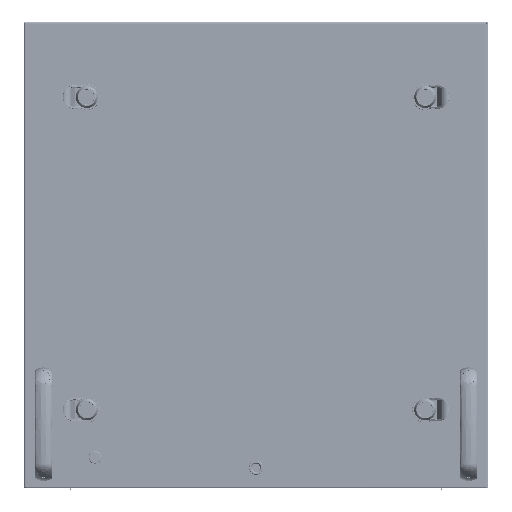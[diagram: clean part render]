
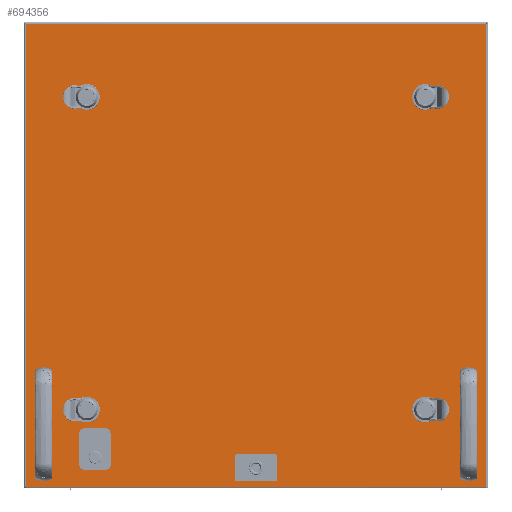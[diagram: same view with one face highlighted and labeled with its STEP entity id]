
A CAD part, front view. The second image highlights one B-rep face of the part: STEP entity #694356.
In plain terms, the highlighted planar face has unit normal (0, -1, 0) as drawn and (0, 0, 1) by its records, which use the part's own axes.
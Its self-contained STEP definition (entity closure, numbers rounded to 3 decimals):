
#692001=CARTESIAN_POINT(' ',(591.7,594.7,0.));
#692006=DIRECTION(' ',(0.,-1.,0.));
#692011=VECTOR(' ',#692006,1.);
#692016=LINE('',#692001,#692011);
#692021=CARTESIAN_POINT(' ',(591.7,594.7,0.));
#692022=VERTEX_POINT(' ',#692021);
#692026=CARTESIAN_POINT(' ',(591.7,2.3,0.));
#692027=VERTEX_POINT(' ',#692026);
#692031=EDGE_CURVE(' ',#692022,#692027,#692016,.T.);
#693546=DIRECTION(' ',(-0.,-0.,1.));
#693551=CARTESIAN_POINT(' ',(591.7,2.3,0.));
#693556=DIRECTION(' ',(0.,1.,0.));
#693561=AXIS2_PLACEMENT_3D(' ',#693551,#693546,#693556);
#693566=PLANE('NONE',#693561);
#693571=CARTESIAN_POINT(' ',(2.3,2.3,0.));
#693576=DIRECTION(' ',(1.,0.,0.));
#693581=VECTOR(' ',#693576,1.);
#693586=LINE('',#693571,#693581);
#693591=CARTESIAN_POINT(' ',(2.3,2.3,0.));
#693592=VERTEX_POINT(' ',#693591);
#693596=EDGE_CURVE(' ',#693592,#692027,#693586,.T.);
#693601=ORIENTED_EDGE(' ',*,*,#693596,.T.);
#693606=ORIENTED_EDGE(' ',*,*,#692031,.F.);
#693611=CARTESIAN_POINT(' ',(591.7,594.7,0.));
#693616=DIRECTION(' ',(-1.,0.,0.));
#693621=VECTOR(' ',#693616,1.);
#693626=LINE('',#693611,#693621);
#693631=CARTESIAN_POINT(' ',(2.3,594.7,0.));
#693632=VERTEX_POINT(' ',#693631);
#693636=EDGE_CURVE(' ',#692022,#693632,#693626,.T.);
#693641=ORIENTED_EDGE(' ',*,*,#693636,.T.);
#693646=CARTESIAN_POINT(' ',(2.3,594.7,0.));
#693651=DIRECTION(' ',(0.,-1.,0.));
#693656=VECTOR(' ',#693651,1.);
#693661=LINE('',#693646,#693656);
#693666=EDGE_CURVE(' ',#693632,#693592,#693661,.T.);
#693671=ORIENTED_EDGE(' ',*,*,#693666,.T.);
#693676=EDGE_LOOP(' ',(#693601,#693606,#693641,#693671));
#693681=FACE_OUTER_BOUND(' ',#693676,.T.);
#693686=CARTESIAN_POINT(' ',(110.85,30.,0.));
#693691=DIRECTION(' ',(0.,1.,0.));
#693696=VECTOR(' ',#693691,1.);
#693701=LINE('',#693686,#693696);
#693706=CARTESIAN_POINT(' ',(110.85,30.,0.));
#693707=VERTEX_POINT(' ',#693706);
#693711=CARTESIAN_POINT(' ',(110.85,71.,0.));
#693712=VERTEX_POINT(' ',#693711);
#693716=EDGE_CURVE(' ',#693707,#693712,#693701,.T.);
#693721=ORIENTED_EDGE(' ',*,*,#693716,.F.);
#693726=CARTESIAN_POINT(' ',(104.85,30.,0.));
#693731=DIRECTION(' ',(0.,-0.,1.));
#693736=DIRECTION(' ',(0.,-1.,0.));
#693741=AXIS2_PLACEMENT_3D(' ',#693726,#693731,#693736);
#693746=CIRCLE('',#693741,6.);
#693751=CARTESIAN_POINT(' ',(104.85,24.,0.));
#693752=VERTEX_POINT(' ',#693751);
#693756=EDGE_CURVE(' ',#693752,#693707,#693746,.T.);
#693761=ORIENTED_EDGE(' ',*,*,#693756,.F.);
#693766=CARTESIAN_POINT(' ',(76.85,24.,0.));
#693771=DIRECTION(' ',(1.,0.,0.));
#693776=VECTOR(' ',#693771,1.);
#693781=LINE('',#693766,#693776);
#693786=CARTESIAN_POINT(' ',(76.85,24.,0.));
#693787=VERTEX_POINT(' ',#693786);
#693791=EDGE_CURVE(' ',#693787,#693752,#693781,.T.);
#693796=ORIENTED_EDGE(' ',*,*,#693791,.F.);
#693801=CARTESIAN_POINT(' ',(76.85,30.,0.));
#693806=DIRECTION(' ',(0.,0.,1.));
#693811=DIRECTION(' ',(-1.,0.,0.));
#693816=AXIS2_PLACEMENT_3D(' ',#693801,#693806,#693811);
#693821=CIRCLE('',#693816,6.);
#693826=CARTESIAN_POINT(' ',(70.85,30.,0.));
#693827=VERTEX_POINT(' ',#693826);
#693831=EDGE_CURVE(' ',#693827,#693787,#693821,.T.);
#693836=ORIENTED_EDGE(' ',*,*,#693831,.F.);
#693841=CARTESIAN_POINT(' ',(70.85,71.,0.));
#693846=DIRECTION(' ',(0.,-1.,0.));
#693851=VECTOR(' ',#693846,1.);
#693856=LINE('',#693841,#693851);
#693861=CARTESIAN_POINT(' ',(70.85,71.,0.));
#693862=VERTEX_POINT(' ',#693861);
#693866=EDGE_CURVE(' ',#693862,#693827,#693856,.T.);
#693871=ORIENTED_EDGE(' ',*,*,#693866,.F.);
#693876=CARTESIAN_POINT(' ',(76.85,71.,0.));
#693881=DIRECTION(' ',(0.,0.,1.));
#693886=DIRECTION(' ',(0.,1.,0.));
#693891=AXIS2_PLACEMENT_3D(' ',#693876,#693881,#693886);
#693896=CIRCLE('',#693891,6.);
#693901=CARTESIAN_POINT(' ',(76.85,77.,0.));
#693902=VERTEX_POINT(' ',#693901);
#693906=EDGE_CURVE(' ',#693902,#693862,#693896,.T.);
#693911=ORIENTED_EDGE(' ',*,*,#693906,.F.);
#693916=CARTESIAN_POINT(' ',(104.85,77.,0.));
#693921=DIRECTION(' ',(-1.,0.,0.));
#693926=VECTOR(' ',#693921,1.);
#693931=LINE('',#693916,#693926);
#693936=CARTESIAN_POINT(' ',(104.85,77.,0.));
#693937=VERTEX_POINT(' ',#693936);
#693941=EDGE_CURVE(' ',#693937,#693902,#693931,.T.);
#693946=ORIENTED_EDGE(' ',*,*,#693941,.F.);
#693951=CARTESIAN_POINT(' ',(104.85,71.,0.));
#693956=DIRECTION(' ',(0.,0.,1.));
#693961=DIRECTION(' ',(1.,0.,0.));
#693966=AXIS2_PLACEMENT_3D(' ',#693951,#693956,#693961);
#693971=CIRCLE('',#693966,6.);
#693976=EDGE_CURVE(' ',#693712,#693937,#693971,.T.);
#693981=ORIENTED_EDGE(' ',*,*,#693976,.F.);
#693986=EDGE_LOOP(' ',(#693721,#693761,#693796,#693836,#693871,#693911,#693946,#693981));
#693991=FACE_BOUND(' ',#693986,.T.);
#693996=CARTESIAN_POINT(' ',(297.,26.5,0.));
#694001=DIRECTION(' ',(0.,-0.,-1.));
#694006=DIRECTION(' ',(-1.,0.,0.));
#694011=AXIS2_PLACEMENT_3D(' ',#693996,#694001,#694006);
#694016=CIRCLE('',#694011,10.);
#694021=CARTESIAN_POINT(' ',(287.,26.5,0.));
#694022=VERTEX_POINT(' ',#694021);
#694026=CARTESIAN_POINT(' ',(307.,26.5,0.));
#694027=VERTEX_POINT(' ',#694026);
#694031=EDGE_CURVE(' ',#694022,#694027,#694016,.T.);
#694036=ORIENTED_EDGE(' ',*,*,#694031,.T.);
#694041=CARTESIAN_POINT(' ',(297.,26.5,0.));
#694046=DIRECTION(' ',(0.,0.,-1.));
#694051=DIRECTION(' ',(1.,0.,0.));
#694056=AXIS2_PLACEMENT_3D(' ',#694041,#694046,#694051);
#694061=CIRCLE('',#694056,10.);
#694066=EDGE_CURVE(' ',#694027,#694022,#694061,.T.);
#694071=ORIENTED_EDGE(' ',*,*,#694066,.T.);
#694076=EDGE_LOOP(' ',(#694036,#694071));
#694081=FACE_BOUND(' ',#694076,.T.);
#694086=CARTESIAN_POINT(' ',(569.,143.5,0.));
#694091=DIRECTION(' ',(0.,0.,-1.));
#694096=DIRECTION(' ',(-1.,0.,0.));
#694101=AXIS2_PLACEMENT_3D(' ',#694086,#694091,#694096);
#694106=CIRCLE('',#694101,3.75);
#694111=CARTESIAN_POINT(' ',(565.25,143.5,0.));
#694112=VERTEX_POINT(' ',#694111);
#694116=CARTESIAN_POINT(' ',(572.75,143.5,0.));
#694117=VERTEX_POINT(' ',#694116);
#694121=EDGE_CURVE(' ',#694112,#694117,#694106,.T.);
#694126=ORIENTED_EDGE(' ',*,*,#694121,.T.);
#694131=CARTESIAN_POINT(' ',(569.,143.5,0.));
#694136=DIRECTION(' ',(0.,0.,-1.));
#694141=DIRECTION(' ',(1.,0.,0.));
#694146=AXIS2_PLACEMENT_3D(' ',#694131,#694136,#694141);
#694151=CIRCLE('',#694146,3.75);
#694156=EDGE_CURVE(' ',#694117,#694112,#694151,.T.);
#694161=ORIENTED_EDGE(' ',*,*,#694156,.T.);
#694166=EDGE_LOOP(' ',(#694126,#694161));
#694171=FACE_BOUND(' ',#694166,.T.);
#694176=CARTESIAN_POINT(' ',(25.,23.5,0.));
#694181=DIRECTION(' ',(0.,0.,-1.));
#694186=DIRECTION(' ',(-1.,0.,0.));
#694191=AXIS2_PLACEMENT_3D(' ',#694176,#694181,#694186);
#694196=CIRCLE('',#694191,3.75);
#694201=CARTESIAN_POINT(' ',(21.25,23.5,0.));
#694202=VERTEX_POINT(' ',#694201);
#694206=CARTESIAN_POINT(' ',(28.75,23.5,0.));
#694207=VERTEX_POINT(' ',#694206);
#694211=EDGE_CURVE(' ',#694202,#694207,#694196,.T.);
#694216=ORIENTED_EDGE(' ',*,*,#694211,.T.);
#694221=CARTESIAN_POINT(' ',(25.,23.5,0.));
#694226=DIRECTION(' ',(0.,0.,-1.));
#694231=DIRECTION(' ',(1.,0.,0.));
#694236=AXIS2_PLACEMENT_3D(' ',#694221,#694226,#694231);
#694241=CIRCLE('',#694236,3.75);
#694246=EDGE_CURVE(' ',#694207,#694202,#694241,.T.);
#694251=ORIENTED_EDGE(' ',*,*,#694246,.T.);
#694256=EDGE_LOOP(' ',(#694216,#694251));
#694261=FACE_BOUND(' ',#694256,.T.);
#694266=CARTESIAN_POINT(' ',(25.,143.5,0.));
#694271=DIRECTION(' ',(0.,0.,-1.));
#694276=DIRECTION(' ',(-1.,0.,0.));
#694281=AXIS2_PLACEMENT_3D(' ',#694266,#694271,#694276);
#694286=CIRCLE('',#694281,3.75);
#694291=CARTESIAN_POINT(' ',(21.25,143.5,0.));
#694292=VERTEX_POINT(' ',#694291);
#694296=CARTESIAN_POINT(' ',(28.75,143.5,0.));
#694297=VERTEX_POINT(' ',#694296);
#694301=EDGE_CURVE(' ',#694292,#694297,#694286,.T.);
#694306=ORIENTED_EDGE(' ',*,*,#694301,.T.);
#694311=CARTESIAN_POINT(' ',(25.,143.5,0.));
#694316=DIRECTION(' ',(0.,0.,-1.));
#694321=DIRECTION(' ',(1.,0.,0.));
#694326=AXIS2_PLACEMENT_3D(' ',#694311,#694316,#694321);
#694331=CIRCLE('',#694326,3.75);
#694336=EDGE_CURVE(' ',#694297,#694292,#694331,.T.);
#694341=ORIENTED_EDGE(' ',*,*,#694336,.T.);
#694346=EDGE_LOOP(' ',(#694306,#694341));
#694351=FACE_BOUND(' ',#694346,.T.);
#694356=ADVANCED_FACE('NONE',(#693681,#693991,#694081,#694171,#694261,#694351),#693566,.T.);
